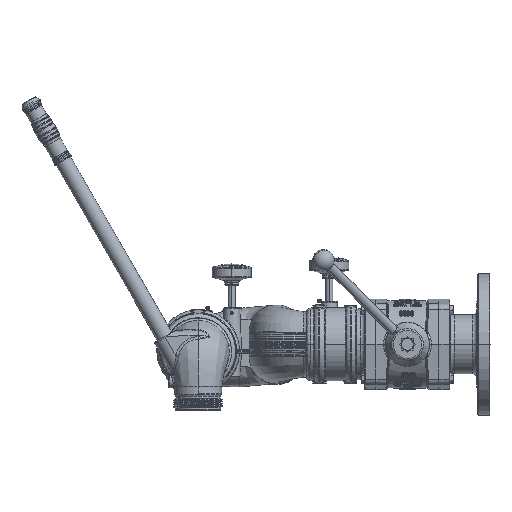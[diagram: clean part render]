
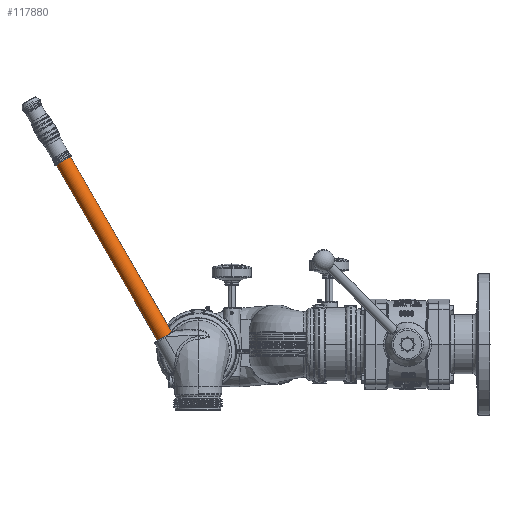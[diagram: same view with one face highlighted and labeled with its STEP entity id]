
A CAD part, left-side view. The second image highlights one B-rep face of the part: STEP entity #117880.
In plain terms, the highlighted cylindrical face has radius 13.335 mm (diameter 26.67 mm), a partial arc.
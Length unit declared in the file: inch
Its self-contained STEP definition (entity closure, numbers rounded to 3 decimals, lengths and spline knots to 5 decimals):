
#117749=CARTESIAN_POINT('',(0.005,13.42145,0.46644));
#117750=DIRECTION('',(0.,-0.5,-0.866));
#117751=DIRECTION('',(-0.809,-0.51,0.294));
#117752=AXIS2_PLACEMENT_3D('',#117749,#117750,#117751);
#117754=CARTESIAN_POINT('',(0.005,22.44985,
15.07313));
#117755=CARTESIAN_POINT('',(-0.03553,22.44985,
15.07313));
#117756=CARTESIAN_POINT('',(-0.11755,22.44169,
15.07779));
#117757=CARTESIAN_POINT('',(-0.23697,22.40372,
15.09974));
#117758=CARTESIAN_POINT('',(-0.34378,22.34105,
15.13586));
#117759=CARTESIAN_POINT('',(-0.42996,22.25772,
15.18391));
#117760=CARTESIAN_POINT('',(-0.49016,22.15924,
15.24069));
#117761=CARTESIAN_POINT('',(-0.52125,22.05111,
15.30305));
#117762=CARTESIAN_POINT('',(-0.52132,21.93953,
15.36739));
#117763=CARTESIAN_POINT('',(-0.49038,21.83135,
15.42976));
#117764=CARTESIAN_POINT('',(-0.43033,21.73283,
15.48657));
#117765=CARTESIAN_POINT('',(-0.34429,21.64943,
15.53465));
#117766=CARTESIAN_POINT('',(-0.23753,21.58661,
15.57089));
#117767=CARTESIAN_POINT('',(-0.1179,21.54841,
15.59286));
#117768=CARTESIAN_POINT('',(-0.03566,21.54024,
15.59762));
#117769=CARTESIAN_POINT('',(0.005,21.54024,
15.59762));
#117771=CARTESIAN_POINT('',(0.005,13.42145,0.46644));
#117772=DIRECTION('',(0.,-0.5,-0.866));
#117773=DIRECTION('',(0.,-0.866,0.5));
#117774=AXIS2_PLACEMENT_3D('',#117771,#117772,#117773);
#117781=DIRECTION('',(0.,0.5,0.866));
#117782=VECTOR('',#117781,17.16367);
#117783=CARTESIAN_POINT('',(0.005,12.96664,0.72869));
#117784=LINE('',#117783,#117782);
#117802=DIRECTION('',(0.,0.5,0.866));
#117803=VECTOR('',#117802,17.16367);
#117804=CARTESIAN_POINT('',(0.005,13.87626,0.2042));
#117805=LINE('',#117804,#117803);
#117824=VERTEX_POINT('',#117754);
#117825=VERTEX_POINT('',#117769);
#117826=CARTESIAN_POINT('',(0.005,12.96664,0.72869));
#117827=CARTESIAN_POINT('',(0.005,13.87626,0.2042));
#117828=VERTEX_POINT('',#117826);
#117829=VERTEX_POINT('',#117827);
#117833=CARTESIAN_POINT('',(-0.41951,13.15386,
0.62074));
#117834=VERTEX_POINT('',#117833);
#117863=CARTESIAN_POINT('',(0.005,12.68368,-0.81304));
#117864=DIRECTION('',(0.,0.5,0.866));
#117865=DIRECTION('',(0.,0.866,-0.5));
#117866=AXIS2_PLACEMENT_3D('',#117863,#117864,#117865);
#117867=CYLINDRICAL_SURFACE('',#117866,0.525);
#117869=ORIENTED_EDGE('',*,*,#117868,.T.);
#117871=ORIENTED_EDGE('',*,*,#117870,.T.);
#117873=ORIENTED_EDGE('',*,*,#117872,.T.);
#117875=ORIENTED_EDGE('',*,*,#117874,.F.);
#117877=ORIENTED_EDGE('',*,*,#117876,.T.);
#117878=EDGE_LOOP('',(#117869,#117871,#117873,#117875,#117877));
#117879=FACE_OUTER_BOUND('',#117878,.F.);
#117753=CIRCLE('',#117752,0.525);
#117770=B_SPLINE_CURVE_WITH_KNOTS('',3,(#117754,#117755,#117756,#117757,#117758,
#117759,#117760,#117761,#117762,#117763,#117764,#117765,#117766,#117767,#117768,
#117769),.UNSPECIFIED.,.F.,.F.,(4,1,1,1,1,1,1,1,1,1,1,1,1,4),(0.,
0.07692,0.15385,0.23077,0.30769,
0.38462,0.46154,0.53846,0.61538,
0.69231,0.76923,0.84615,0.92308,1.),
.UNSPECIFIED.);
#117775=CIRCLE('',#117774,0.525);
#117868=EDGE_CURVE('',#117834,#117829,#117753,.T.);
#117870=EDGE_CURVE('',#117829,#117824,#117805,.T.);
#117872=EDGE_CURVE('',#117824,#117825,#117770,.T.);
#117874=EDGE_CURVE('',#117828,#117825,#117784,.T.);
#117876=EDGE_CURVE('',#117828,#117834,#117775,.T.);
#117880=ADVANCED_FACE('',(#117879),#117867,.T.);
